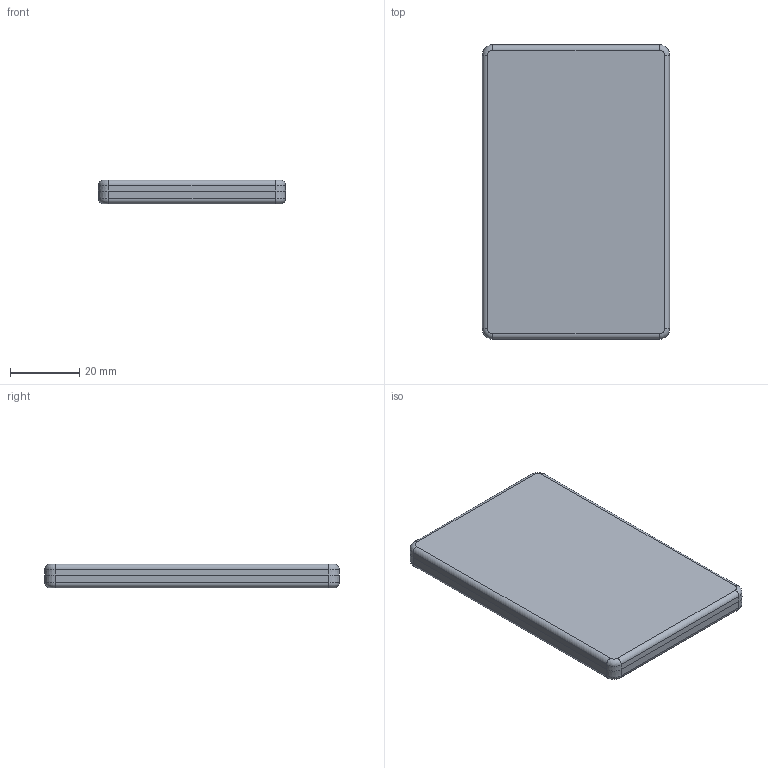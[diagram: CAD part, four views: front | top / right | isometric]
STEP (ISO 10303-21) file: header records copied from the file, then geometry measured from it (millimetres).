
FILE_DESCRIPTION (( 'STEP AP203' ), '1' );
FILE_NAME ('KM-45N.STEP', '2024-03-05T21:18:26', ( '' ), ( '' ), 'SwSTEP 2.0', 'SolidWorks 2013', '' );
FILE_SCHEMA (( 'CONFIG_CONTROL_DESIGN' ));
Length unit declared in the file: millimetre
Products named in the file (3): KM-45N; KM-45 gora; KM-45 dol
Assembly tree (2 placements, depth 2):
  KM-45N
    KM-45 dol
    KM-45 gora
Bounding box: 54 x 84.9 x 6.9 mm (x, y, z)
Volume: 17084.3 mm3; surface area: 21880.1 mm2
Topology: 2 solids, 2 shells, 135 faces, 296 edges, 192 vertices
Faces by surface type: plane 51, cylinder 48, cone 28, torus 8
Entity records: 4067 total; most frequent: DIRECTION 736, CARTESIAN_POINT 628, ORIENTED_EDGE 592, AXIS2_PLACEMENT_3D 300, EDGE_CURVE 296, VERTEX_POINT 192, EDGE_LOOP 162, CIRCLE 160
